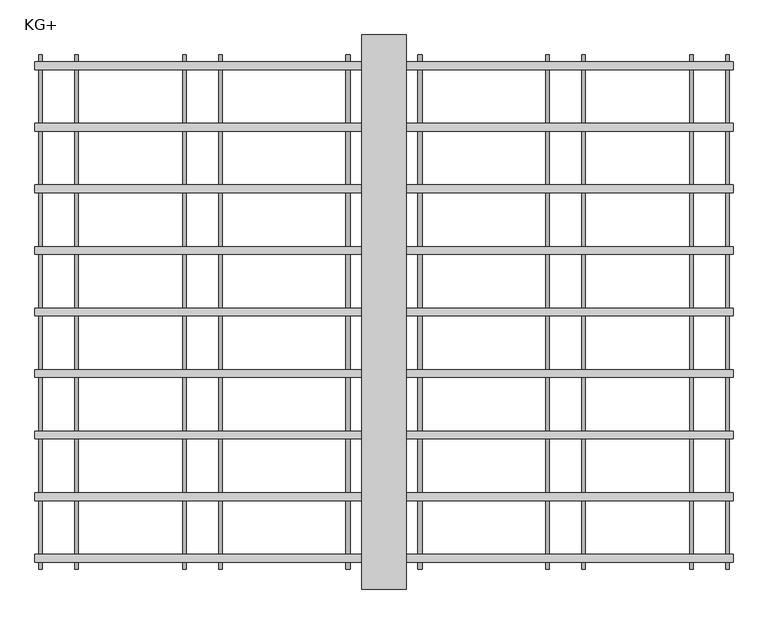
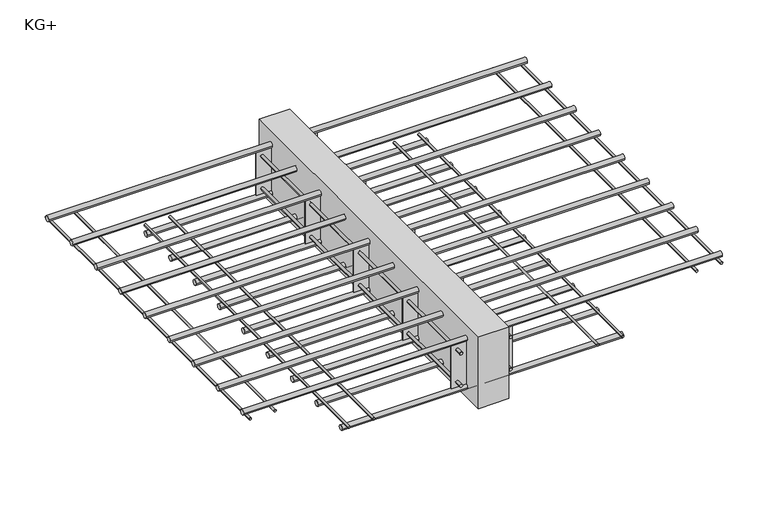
"""IFC4 building model written with IfcOpenShell, lengths in millimetres: fastener geometry, ACINOXplus_Typenreihe_K : KG+."""

from ifc_helpers import new_model, si_unit, point, frame, frame_2d, origin, place, context, project, spatial, polyline, circle_curve, trimmed, segment, composite_curve, outline, extrude, source, transform, mapped, element, save


def kg_b0e02aeb(model_context):
    return source(origin(), model_context, "Body", "SweptSolid", [
        extrude(outline(polyline([(40.0, 500.0), (40.0, -500.0), (-40.0, -500.0), (-40.0, 500.0), (40.0, 500.0)])), frame((0.0, 0.0, -200.0), z_axis=(0.0, 0.0, 1.0), x_axis=(1.0, 0.0, 0.0)), (0.0, 0.0, 1.0), 200.0),
        extrude(outline(polyline([(80.0, -220.7222222), (80.0, -223.7222222), (-80.0, -223.7222222), (-80.0, -220.7222222), (80.0, -220.7222222)])), frame((0.0, 0.0, -164.0), z_axis=(0.0, 0.0, 1.0), x_axis=(1.0, 0.0, 0.0)), (0.0, 0.0, 1.0), 120.0),
        extrude(outline(polyline([(80.0, 1.5), (80.0, -1.5), (-80.0, -1.5), (-80.0, 1.5), (80.0, 1.5)])), frame((0.0, 0.0, -164.0), z_axis=(0.0, 0.0, 1.0), x_axis=(1.0, 0.0, 0.0)), (0.0, 0.0, 1.0), 120.0),
        extrude(outline(polyline([(80.0, 223.7222222), (80.0, 220.7222222), (-80.0, 220.7222222), (-80.0, 223.7222222), (80.0, 223.7222222)])), frame((0.0, 0.0, -164.0), z_axis=(0.0, 0.0, 1.0), x_axis=(1.0, 0.0, 0.0)), (0.0, 0.0, 1.0), 120.0),
        extrude(outline(polyline([(80.0, -442.9444444), (80.0, -445.9444444), (-80.0, -445.9444444), (-80.0, -442.9444444), (80.0, -442.9444444)])), frame((0.0, 0.0, -164.0), z_axis=(0.0, 0.0, 1.0), x_axis=(1.0, 0.0, 0.0)), (0.0, 0.0, 1.0), 120.0),
        extrude(outline(polyline([(80.0, 445.9444444), (80.0, 442.9444444), (-80.0, 442.9444444), (-80.0, 445.9444444), (80.0, 445.9444444)])), frame((0.0, 0.0, -164.0), z_axis=(0.0, 0.0, 1.0), x_axis=(1.0, 0.0, 0.0)), (0.0, 0.0, 1.0), 120.0),
        extrude(outline(composite_curve([segment(trimmed(circle_curve(frame_2d((-149.0, -65.0)), 4.0), [point((-149.0, -61.0))], [point((-149.0, -69.0))], False, "CARTESIAN"), True, "CONTINUOUS"), segment(trimmed(circle_curve(frame_2d((-149.0, -65.0)), 4.0), [point((-149.0, -69.0))], [point((-149.0, -61.0))], False, "CARTESIAN"), True, "CONTINUOUS")], self_intersect=False)), frame((0.0, -464.4444444, 0.0), z_axis=(0.0, 1.0, 0.0), x_axis=(0.0, 0.0, 1.0)), (0.0, 0.0, 1.0), 18.5),
        extrude(outline(composite_curve([segment(trimmed(circle_curve(frame_2d((-149.0, -65.0)), 4.0), [point((-149.0, -69.0))], [point((-149.0, -61.0))], False, "CARTESIAN"), True, "CONTINUOUS"), segment(trimmed(circle_curve(frame_2d((-149.0, -65.0)), 4.0), [point((-149.0, -61.0))], [point((-149.0, -69.0))], False, "CARTESIAN"), True, "CONTINUOUS")], self_intersect=False)), frame((0.0, -442.9444444, 0.0), z_axis=(0.0, 1.0, 0.0), x_axis=(0.0, 0.0, 1.0)), (0.0, 0.0, 1.0), 663.6666667),
        extrude(outline(composite_curve([segment(trimmed(circle_curve(frame_2d((-149.0, -65.0)), 4.0), [point((-149.0, -69.0))], [point((-149.0, -61.0))], False, "CARTESIAN"), True, "CONTINUOUS"), segment(trimmed(circle_curve(frame_2d((-149.0, -65.0)), 4.0), [point((-149.0, -61.0))], [point((-149.0, -69.0))], False, "CARTESIAN"), True, "CONTINUOUS")], self_intersect=False)), frame((0.0, 445.9444444, 0.0), z_axis=(0.0, 1.0, 0.0), x_axis=(0.0, 0.0, 1.0)), (0.0, 0.0, 1.0), 18.5),
        extrude(outline(composite_curve([segment(trimmed(circle_curve(frame_2d((-149.0, -65.0)), 4.0), [point((-149.0, -69.0))], [point((-149.0, -61.0))], False, "CARTESIAN"), True, "CONTINUOUS"), segment(trimmed(circle_curve(frame_2d((-149.0, -65.0)), 4.0), [point((-149.0, -61.0))], [point((-149.0, -69.0))], False, "CARTESIAN"), True, "CONTINUOUS")], self_intersect=False)), frame((0.0, 223.7222222, 0.0), z_axis=(0.0, 1.0, 0.0), x_axis=(0.0, 0.0, 1.0)), (0.0, 0.0, 1.0), 219.2222222),
        extrude(outline(composite_curve([segment(trimmed(circle_curve(frame_2d((-149.0, 65.0)), 4.0), [point((-149.0, 69.0))], [point((-149.0, 61.0))], False, "CARTESIAN"), True, "CONTINUOUS"), segment(trimmed(circle_curve(frame_2d((-149.0, 65.0)), 4.0), [point((-149.0, 61.0))], [point((-149.0, 69.0))], False, "CARTESIAN"), True, "CONTINUOUS")], self_intersect=False)), frame((0.0, -464.4444444, 0.0), z_axis=(0.0, 1.0, 0.0), x_axis=(0.0, 0.0, 1.0)), (0.0, 0.0, 1.0), 18.5),
        extrude(outline(composite_curve([segment(trimmed(circle_curve(frame_2d((-149.0, 65.0)), 4.0), [point((-149.0, 61.0))], [point((-149.0, 69.0))], False, "CARTESIAN"), True, "CONTINUOUS"), segment(trimmed(circle_curve(frame_2d((-149.0, 65.0)), 4.0), [point((-149.0, 69.0))], [point((-149.0, 61.0))], False, "CARTESIAN"), True, "CONTINUOUS")], self_intersect=False)), frame((0.0, -442.9444444, 0.0), z_axis=(0.0, 1.0, 0.0), x_axis=(0.0, 0.0, 1.0)), (0.0, 0.0, 1.0), 663.6666667),
        extrude(outline(composite_curve([segment(trimmed(circle_curve(frame_2d((-149.0, 65.0)), 4.0), [point((-149.0, 61.0))], [point((-149.0, 69.0))], False, "CARTESIAN"), True, "CONTINUOUS"), segment(trimmed(circle_curve(frame_2d((-149.0, 65.0)), 4.0), [point((-149.0, 69.0))], [point((-149.0, 61.0))], False, "CARTESIAN"), True, "CONTINUOUS")], self_intersect=False)), frame((0.0, 445.9444444, 0.0), z_axis=(0.0, 1.0, 0.0), x_axis=(0.0, 0.0, 1.0)), (0.0, 0.0, 1.0), 18.5),
        extrude(outline(composite_curve([segment(trimmed(circle_curve(frame_2d((-149.0, 65.0)), 4.0), [point((-149.0, 61.0))], [point((-149.0, 69.0))], False, "CARTESIAN"), True, "CONTINUOUS"), segment(trimmed(circle_curve(frame_2d((-149.0, 65.0)), 4.0), [point((-149.0, 69.0))], [point((-149.0, 61.0))], False, "CARTESIAN"), True, "CONTINUOUS")], self_intersect=False)), frame((0.0, 223.7222222, 0.0), z_axis=(0.0, 1.0, 0.0), x_axis=(0.0, 0.0, 1.0)), (0.0, 0.0, 1.0), 219.2222222),
        extrude(outline(composite_curve([segment(trimmed(circle_curve(frame_2d((-59.0, -65.0)), 4.0), [point((-59.0, -61.0))], [point((-59.0, -69.0))], False, "CARTESIAN"), True, "CONTINUOUS"), segment(trimmed(circle_curve(frame_2d((-59.0, -65.0)), 4.0), [point((-59.0, -69.0))], [point((-59.0, -61.0))], False, "CARTESIAN"), True, "CONTINUOUS")], self_intersect=False)), frame((0.0, -464.4444444, 0.0), z_axis=(0.0, 1.0, 0.0), x_axis=(0.0, 0.0, 1.0)), (0.0, 0.0, 1.0), 18.5),
        extrude(outline(composite_curve([segment(trimmed(circle_curve(frame_2d((-59.0, -65.0)), 4.0), [point((-59.0, -69.0))], [point((-59.0, -61.0))], False, "CARTESIAN"), True, "CONTINUOUS"), segment(trimmed(circle_curve(frame_2d((-59.0, -65.0)), 4.0), [point((-59.0, -61.0))], [point((-59.0, -69.0))], False, "CARTESIAN"), True, "CONTINUOUS")], self_intersect=False)), frame((0.0, -442.9444444, 0.0), z_axis=(0.0, 1.0, 0.0), x_axis=(0.0, 0.0, 1.0)), (0.0, 0.0, 1.0), 663.6666667),
        extrude(outline(composite_curve([segment(trimmed(circle_curve(frame_2d((-59.0, -65.0)), 4.0), [point((-59.0, -69.0))], [point((-59.0, -61.0))], False, "CARTESIAN"), True, "CONTINUOUS"), segment(trimmed(circle_curve(frame_2d((-59.0, -65.0)), 4.0), [point((-59.0, -61.0))], [point((-59.0, -69.0))], False, "CARTESIAN"), True, "CONTINUOUS")], self_intersect=False)), frame((0.0, 445.9444444, 0.0), z_axis=(0.0, 1.0, 0.0), x_axis=(0.0, 0.0, 1.0)), (0.0, 0.0, 1.0), 18.5),
        extrude(outline(composite_curve([segment(trimmed(circle_curve(frame_2d((-59.0, -65.0)), 4.0), [point((-59.0, -69.0))], [point((-59.0, -61.0))], False, "CARTESIAN"), True, "CONTINUOUS"), segment(trimmed(circle_curve(frame_2d((-59.0, -65.0)), 4.0), [point((-59.0, -61.0))], [point((-59.0, -69.0))], False, "CARTESIAN"), True, "CONTINUOUS")], self_intersect=False)), frame((0.0, 223.7222222, 0.0), z_axis=(0.0, 1.0, 0.0), x_axis=(0.0, 0.0, 1.0)), (0.0, 0.0, 1.0), 219.2222222),
        extrude(outline(composite_curve([segment(trimmed(circle_curve(frame_2d((-59.0, 65.0)), 4.0), [point((-59.0, 69.0))], [point((-59.0, 61.0))], False, "CARTESIAN"), True, "CONTINUOUS"), segment(trimmed(circle_curve(frame_2d((-59.0, 65.0)), 4.0), [point((-59.0, 61.0))], [point((-59.0, 69.0))], False, "CARTESIAN"), True, "CONTINUOUS")], self_intersect=False)), frame((0.0, -464.4444444, 0.0), z_axis=(0.0, 1.0, 0.0), x_axis=(0.0, 0.0, 1.0)), (0.0, 0.0, 1.0), 18.5),
        extrude(outline(composite_curve([segment(trimmed(circle_curve(frame_2d((-59.0, 65.0)), 4.0), [point((-59.0, 61.0))], [point((-59.0, 69.0))], False, "CARTESIAN"), True, "CONTINUOUS"), segment(trimmed(circle_curve(frame_2d((-59.0, 65.0)), 4.0), [point((-59.0, 69.0))], [point((-59.0, 61.0))], False, "CARTESIAN"), True, "CONTINUOUS")], self_intersect=False)), frame((0.0, -442.9444444, 0.0), z_axis=(0.0, 1.0, 0.0), x_axis=(0.0, 0.0, 1.0)), (0.0, 0.0, 1.0), 663.6666667),
        extrude(outline(composite_curve([segment(trimmed(circle_curve(frame_2d((-59.0, 65.0)), 4.0), [point((-59.0, 61.0))], [point((-59.0, 69.0))], False, "CARTESIAN"), True, "CONTINUOUS"), segment(trimmed(circle_curve(frame_2d((-59.0, 65.0)), 4.0), [point((-59.0, 69.0))], [point((-59.0, 61.0))], False, "CARTESIAN"), True, "CONTINUOUS")], self_intersect=False)), frame((0.0, 445.9444444, 0.0), z_axis=(0.0, 1.0, 0.0), x_axis=(0.0, 0.0, 1.0)), (0.0, 0.0, 1.0), 18.5),
        extrude(outline(composite_curve([segment(trimmed(circle_curve(frame_2d((-59.0, 65.0)), 4.0), [point((-59.0, 61.0))], [point((-59.0, 69.0))], False, "CARTESIAN"), True, "CONTINUOUS"), segment(trimmed(circle_curve(frame_2d((-59.0, 65.0)), 4.0), [point((-59.0, 69.0))], [point((-59.0, 61.0))], False, "CARTESIAN"), True, "CONTINUOUS")], self_intersect=False)), frame((0.0, 223.7222222, 0.0), z_axis=(0.0, 1.0, 0.0), x_axis=(0.0, 0.0, 1.0)), (0.0, 0.0, 1.0), 219.2222222),
        extrude(outline(composite_curve([segment(trimmed(circle_curve(frame_2d((222.2222222, -171.0)), 7.0), [point((215.2222222, -171.0))], [point((229.2222222, -171.0))], False, "CARTESIAN"), True, "CONTINUOUS"), segment(trimmed(circle_curve(frame_2d((222.2222222, -171.0)), 7.0), [point((229.2222222, -171.0))], [point((215.2222222, -171.0))], False, "CARTESIAN"), True, "CONTINUOUS")], self_intersect=False)), frame((-370.0, 0.0, 0.0), z_axis=(1.0, 0.0, 0.0), x_axis=(0.0, 1.0, 0.0)), (0.0, 0.0, 1.0), 740.0),
        extrude(outline(composite_curve([segment(trimmed(circle_curve(frame_2d((111.1111111, -171.0)), 7.0), [point((104.1111111, -171.0))], [point((118.1111111, -171.0))], False, "CARTESIAN"), True, "CONTINUOUS"), segment(trimmed(circle_curve(frame_2d((111.1111111, -171.0)), 7.0), [point((118.1111111, -171.0))], [point((104.1111111, -171.0))], False, "CARTESIAN"), True, "CONTINUOUS")], self_intersect=False)), frame((-370.0, 0.0, 0.0), z_axis=(1.0, 0.0, 0.0), x_axis=(0.0, 1.0, 0.0)), (0.0, 0.0, 1.0), 740.0),
        extrude(outline(composite_curve([segment(trimmed(circle_curve(frame_2d((0.0, -171.0)), 7.0), [point((-7.0, -171.0))], [point((7.0, -171.0))], False, "CARTESIAN"), True, "CONTINUOUS"), segment(trimmed(circle_curve(frame_2d((0.0, -171.0)), 7.0), [point((7.0, -171.0))], [point((-7.0, -171.0))], False, "CARTESIAN"), True, "CONTINUOUS")], self_intersect=False)), frame((-370.0, 0.0, 0.0), z_axis=(1.0, 0.0, 0.0), x_axis=(0.0, 1.0, 0.0)), (0.0, 0.0, 1.0), 740.0),
        extrude(outline(composite_curve([segment(trimmed(circle_curve(frame_2d((-111.1111111, -171.0)), 7.0), [point((-118.1111111, -171.0))], [point((-104.1111111, -171.0))], False, "CARTESIAN"), True, "CONTINUOUS"), segment(trimmed(circle_curve(frame_2d((-111.1111111, -171.0)), 7.0), [point((-104.1111111, -171.0))], [point((-118.1111111, -171.0))], False, "CARTESIAN"), True, "CONTINUOUS")], self_intersect=False)), frame((-370.0, 0.0, 0.0), z_axis=(1.0, 0.0, 0.0), x_axis=(0.0, 1.0, 0.0)), (0.0, 0.0, 1.0), 740.0),
        extrude(outline(composite_curve([segment(trimmed(circle_curve(frame_2d((-222.2222222, -171.0)), 7.0), [point((-229.2222222, -171.0))], [point((-215.2222222, -171.0))], False, "CARTESIAN"), True, "CONTINUOUS"), segment(trimmed(circle_curve(frame_2d((-222.2222222, -171.0)), 7.0), [point((-215.2222222, -171.0))], [point((-229.2222222, -171.0))], False, "CARTESIAN"), True, "CONTINUOUS")], self_intersect=False)), frame((-370.0, 0.0, 0.0), z_axis=(1.0, 0.0, 0.0), x_axis=(0.0, 1.0, 0.0)), (0.0, 0.0, 1.0), 740.0),
        extrude(outline(composite_curve([segment(trimmed(circle_curve(frame_2d((333.3333333, -171.0)), 7.0), [point((326.3333333, -171.0))], [point((340.3333333, -171.0))], False, "CARTESIAN"), True, "CONTINUOUS"), segment(trimmed(circle_curve(frame_2d((333.3333333, -171.0)), 7.0), [point((340.3333333, -171.0))], [point((326.3333333, -171.0))], False, "CARTESIAN"), True, "CONTINUOUS")], self_intersect=False)), frame((-370.0, 0.0, 0.0), z_axis=(1.0, 0.0, 0.0), x_axis=(0.0, 1.0, 0.0)), (0.0, 0.0, 1.0), 740.0),
        extrude(outline(composite_curve([segment(trimmed(circle_curve(frame_2d((444.4444444, -171.0)), 7.0), [point((437.4444444, -171.0))], [point((451.4444444, -171.0))], False, "CARTESIAN"), True, "CONTINUOUS"), segment(trimmed(circle_curve(frame_2d((444.4444444, -171.0)), 7.0), [point((451.4444444, -171.0))], [point((437.4444444, -171.0))], False, "CARTESIAN"), True, "CONTINUOUS")], self_intersect=False)), frame((-370.0, 0.0, 0.0), z_axis=(1.0, 0.0, 0.0), x_axis=(0.0, 1.0, 0.0)), (0.0, 0.0, 1.0), 740.0),
        extrude(outline(composite_curve([segment(trimmed(circle_curve(frame_2d((-333.3333333, -171.0)), 7.0), [point((-340.3333333, -171.0))], [point((-326.3333333, -171.0))], False, "CARTESIAN"), True, "CONTINUOUS"), segment(trimmed(circle_curve(frame_2d((-333.3333333, -171.0)), 7.0), [point((-326.3333333, -171.0))], [point((-340.3333333, -171.0))], False, "CARTESIAN"), True, "CONTINUOUS")], self_intersect=False)), frame((-370.0, 0.0, 0.0), z_axis=(1.0, 0.0, 0.0), x_axis=(0.0, 1.0, 0.0)), (0.0, 0.0, 1.0), 740.0),
        extrude(outline(composite_curve([segment(trimmed(circle_curve(frame_2d((-444.4444444, -171.0)), 7.0), [point((-451.4444444, -171.0))], [point((-437.4444444, -171.0))], False, "CARTESIAN"), True, "CONTINUOUS"), segment(trimmed(circle_curve(frame_2d((-444.4444444, -171.0)), 7.0), [point((-437.4444444, -171.0))], [point((-451.4444444, -171.0))], False, "CARTESIAN"), True, "CONTINUOUS")], self_intersect=False)), frame((-370.0, 0.0, 0.0), z_axis=(1.0, 0.0, 0.0), x_axis=(0.0, 1.0, 0.0)), (0.0, 0.0, 1.0), 740.0),
        extrude(outline(composite_curve([segment(trimmed(circle_curve(frame_2d((222.2222222, -37.0)), 7.0), [point((215.2222222, -37.0))], [point((229.2222222, -37.0))], False, "CARTESIAN"), True, "CONTINUOUS"), segment(trimmed(circle_curve(frame_2d((222.2222222, -37.0)), 7.0), [point((229.2222222, -37.0))], [point((215.2222222, -37.0))], False, "CARTESIAN"), True, "CONTINUOUS")], self_intersect=False)), frame((-630.0, 0.0, 0.0), z_axis=(1.0, 0.0, 0.0), x_axis=(0.0, 1.0, 0.0)), (0.0, 0.0, 1.0), 1260.0),
        extrude(outline(composite_curve([segment(trimmed(circle_curve(frame_2d((111.1111111, -37.0)), 7.0), [point((104.1111111, -37.0))], [point((118.1111111, -37.0))], False, "CARTESIAN"), True, "CONTINUOUS"), segment(trimmed(circle_curve(frame_2d((111.1111111, -37.0)), 7.0), [point((118.1111111, -37.0))], [point((104.1111111, -37.0))], False, "CARTESIAN"), True, "CONTINUOUS")], self_intersect=False)), frame((-630.0, 0.0, 0.0), z_axis=(1.0, 0.0, 0.0), x_axis=(0.0, 1.0, 0.0)), (0.0, 0.0, 1.0), 1260.0),
        extrude(outline(composite_curve([segment(trimmed(circle_curve(frame_2d((0.0, -37.0)), 7.0), [point((-7.0, -37.0))], [point((7.0, -37.0))], False, "CARTESIAN"), True, "CONTINUOUS"), segment(trimmed(circle_curve(frame_2d((0.0, -37.0)), 7.0), [point((7.0, -37.0))], [point((-7.0, -37.0))], False, "CARTESIAN"), True, "CONTINUOUS")], self_intersect=False)), frame((-630.0, 0.0, 0.0), z_axis=(1.0, 0.0, 0.0), x_axis=(0.0, 1.0, 0.0)), (0.0, 0.0, 1.0), 1260.0),
        extrude(outline(composite_curve([segment(trimmed(circle_curve(frame_2d((-111.1111111, -37.0)), 7.0), [point((-118.1111111, -37.0))], [point((-104.1111111, -37.0))], False, "CARTESIAN"), True, "CONTINUOUS"), segment(trimmed(circle_curve(frame_2d((-111.1111111, -37.0)), 7.0), [point((-104.1111111, -37.0))], [point((-118.1111111, -37.0))], False, "CARTESIAN"), True, "CONTINUOUS")], self_intersect=False)), frame((-630.0, 0.0, 0.0), z_axis=(1.0, 0.0, 0.0), x_axis=(0.0, 1.0, 0.0)), (0.0, 0.0, 1.0), 1260.0),
        extrude(outline(composite_curve([segment(trimmed(circle_curve(frame_2d((-222.2222222, -37.0)), 7.0), [point((-229.2222222, -37.0))], [point((-215.2222222, -37.0))], False, "CARTESIAN"), True, "CONTINUOUS"), segment(trimmed(circle_curve(frame_2d((-222.2222222, -37.0)), 7.0), [point((-215.2222222, -37.0))], [point((-229.2222222, -37.0))], False, "CARTESIAN"), True, "CONTINUOUS")], self_intersect=False)), frame((-630.0, 0.0, 0.0), z_axis=(1.0, 0.0, 0.0), x_axis=(0.0, 1.0, 0.0)), (0.0, 0.0, 1.0), 1260.0),
        extrude(outline(composite_curve([segment(trimmed(circle_curve(frame_2d((333.3333333, -37.0)), 7.0), [point((326.3333333, -37.0))], [point((340.3333333, -37.0))], False, "CARTESIAN"), True, "CONTINUOUS"), segment(trimmed(circle_curve(frame_2d((333.3333333, -37.0)), 7.0), [point((340.3333333, -37.0))], [point((326.3333333, -37.0))], False, "CARTESIAN"), True, "CONTINUOUS")], self_intersect=False)), frame((-630.0, 0.0, 0.0), z_axis=(1.0, 0.0, 0.0), x_axis=(0.0, 1.0, 0.0)), (0.0, 0.0, 1.0), 1260.0),
        extrude(outline(composite_curve([segment(trimmed(circle_curve(frame_2d((444.4444444, -37.0)), 7.0), [point((437.4444444, -37.0))], [point((451.4444444, -37.0))], False, "CARTESIAN"), True, "CONTINUOUS"), segment(trimmed(circle_curve(frame_2d((444.4444444, -37.0)), 7.0), [point((451.4444444, -37.0))], [point((437.4444444, -37.0))], False, "CARTESIAN"), True, "CONTINUOUS")], self_intersect=False)), frame((-630.0, 0.0, 0.0), z_axis=(1.0, 0.0, 0.0), x_axis=(0.0, 1.0, 0.0)), (0.0, 0.0, 1.0), 1260.0),
        extrude(outline(composite_curve([segment(trimmed(circle_curve(frame_2d((-333.3333333, -37.0)), 7.0), [point((-340.3333333, -37.0))], [point((-326.3333333, -37.0))], False, "CARTESIAN"), True, "CONTINUOUS"), segment(trimmed(circle_curve(frame_2d((-333.3333333, -37.0)), 7.0), [point((-326.3333333, -37.0))], [point((-340.3333333, -37.0))], False, "CARTESIAN"), True, "CONTINUOUS")], self_intersect=False)), frame((-630.0, 0.0, 0.0), z_axis=(1.0, 0.0, 0.0), x_axis=(0.0, 1.0, 0.0)), (0.0, 0.0, 1.0), 1260.0),
        extrude(outline(composite_curve([segment(trimmed(circle_curve(frame_2d((-444.4444444, -37.0)), 7.0), [point((-451.4444444, -37.0))], [point((-437.4444444, -37.0))], False, "CARTESIAN"), True, "CONTINUOUS"), segment(trimmed(circle_curve(frame_2d((-444.4444444, -37.0)), 7.0), [point((-437.4444444, -37.0))], [point((-451.4444444, -37.0))], False, "CARTESIAN"), True, "CONTINUOUS")], self_intersect=False)), frame((-630.0, 0.0, 0.0), z_axis=(1.0, 0.0, 0.0), x_axis=(0.0, 1.0, 0.0)), (0.0, 0.0, 1.0), 1260.0),
        extrude(outline(composite_curve([segment(trimmed(circle_curve(frame_2d((-161.0, -360.0)), 3.0), [point((-161.0, -357.0))], [point((-161.0, -363.0))], False, "CARTESIAN"), True, "CONTINUOUS"), segment(trimmed(circle_curve(frame_2d((-161.0, -360.0)), 3.0), [point((-161.0, -363.0))], [point((-161.0, -357.0))], False, "CARTESIAN"), True, "CONTINUOUS")], self_intersect=False)), frame((0.0, -464.4444444, 0.0), z_axis=(0.0, 1.0, 0.0), x_axis=(0.0, 0.0, 1.0)), (0.0, 0.0, 1.0), 928.8888889),
        extrude(outline(composite_curve([segment(trimmed(circle_curve(frame_2d((-161.0, -295.0)), 3.0), [point((-161.0, -292.0))], [point((-161.0, -298.0))], False, "CARTESIAN"), True, "CONTINUOUS"), segment(trimmed(circle_curve(frame_2d((-161.0, -295.0)), 3.0), [point((-161.0, -298.0))], [point((-161.0, -292.0))], False, "CARTESIAN"), True, "CONTINUOUS")], self_intersect=False)), frame((0.0, -464.4444444, 0.0), z_axis=(0.0, 1.0, 0.0), x_axis=(0.0, 0.0, 1.0)), (0.0, 0.0, 1.0), 928.8888889),
        extrude(outline(composite_curve([segment(trimmed(circle_curve(frame_2d((-161.0, 295.0)), 3.0), [point((-161.0, 298.0))], [point((-161.0, 292.0))], False, "CARTESIAN"), True, "CONTINUOUS"), segment(trimmed(circle_curve(frame_2d((-161.0, 295.0)), 3.0), [point((-161.0, 292.0))], [point((-161.0, 298.0))], False, "CARTESIAN"), True, "CONTINUOUS")], self_intersect=False)), frame((0.0, -464.4444444, 0.0), z_axis=(0.0, 1.0, 0.0), x_axis=(0.0, 0.0, 1.0)), (0.0, 0.0, 1.0), 928.8888889),
        extrude(outline(composite_curve([segment(trimmed(circle_curve(frame_2d((-161.0, 360.0)), 3.0), [point((-161.0, 363.0))], [point((-161.0, 357.0))], False, "CARTESIAN"), True, "CONTINUOUS"), segment(trimmed(circle_curve(frame_2d((-161.0, 360.0)), 3.0), [point((-161.0, 357.0))], [point((-161.0, 363.0))], False, "CARTESIAN"), True, "CONTINUOUS")], self_intersect=False)), frame((0.0, -464.4444444, 0.0), z_axis=(0.0, 1.0, 0.0), x_axis=(0.0, 0.0, 1.0)), (0.0, 0.0, 1.0), 928.8888889),
        extrude(outline(composite_curve([segment(trimmed(circle_curve(frame_2d((-47.0, 555.0)), 3.0), [point((-47.0, 558.0))], [point((-47.0, 552.0))], False, "CARTESIAN"), True, "CONTINUOUS"), segment(trimmed(circle_curve(frame_2d((-47.0, 555.0)), 3.0), [point((-47.0, 552.0))], [point((-47.0, 558.0))], False, "CARTESIAN"), True, "CONTINUOUS")], self_intersect=False)), frame((0.0, -464.4444444, 0.0), z_axis=(0.0, 1.0, 0.0), x_axis=(0.0, 0.0, 1.0)), (0.0, 0.0, 1.0), 928.8888889),
        extrude(outline(composite_curve([segment(trimmed(circle_curve(frame_2d((-47.0, 620.0)), 3.0), [point((-47.0, 623.0))], [point((-47.0, 617.0))], False, "CARTESIAN"), True, "CONTINUOUS"), segment(trimmed(circle_curve(frame_2d((-47.0, 620.0)), 3.0), [point((-47.0, 617.0))], [point((-47.0, 623.0))], False, "CARTESIAN"), True, "CONTINUOUS")], self_intersect=False)), frame((0.0, -464.4444444, 0.0), z_axis=(0.0, 1.0, 0.0), x_axis=(0.0, 0.0, 1.0)), (0.0, 0.0, 1.0), 928.8888889),
        extrude(outline(composite_curve([segment(trimmed(circle_curve(frame_2d((-47.0, -620.0)), 3.0), [point((-47.0, -617.0))], [point((-47.0, -623.0))], False, "CARTESIAN"), True, "CONTINUOUS"), segment(trimmed(circle_curve(frame_2d((-47.0, -620.0)), 3.0), [point((-47.0, -623.0))], [point((-47.0, -617.0))], False, "CARTESIAN"), True, "CONTINUOUS")], self_intersect=False)), frame((0.0, -464.4444444, 0.0), z_axis=(0.0, 1.0, 0.0), x_axis=(0.0, 0.0, 1.0)), (0.0, 0.0, 1.0), 928.8888889),
        extrude(outline(composite_curve([segment(trimmed(circle_curve(frame_2d((-47.0, -555.0)), 3.0), [point((-47.0, -552.0))], [point((-47.0, -558.0))], False, "CARTESIAN"), True, "CONTINUOUS"), segment(trimmed(circle_curve(frame_2d((-47.0, -555.0)), 3.0), [point((-47.0, -558.0))], [point((-47.0, -552.0))], False, "CARTESIAN"), True, "CONTINUOUS")], self_intersect=False)), frame((0.0, -464.4444444, 0.0), z_axis=(0.0, 1.0, 0.0), x_axis=(0.0, 0.0, 1.0)), (0.0, 0.0, 1.0), 928.8888889),
    ])


if __name__ == "__main__":
    model = new_model("IFC4")
    model_context = context("Model", 3, world=origin())
    ifc_project = project(units=[si_unit("LENGTHUNIT", "METRE", prefix="MILLI")], contexts=[model_context])
    site = spatial("IfcSite", under=ifc_project)
    building = spatial("IfcBuilding", under=site)
    placement = place(None, origin())
    kg_shape = kg_b0e02aeb(model_context)
    element("IfcFastener", 1, ObjectType="ACINOXplus_Typenreihe_K : KG+", at=placement, inside=building, context=model_context, shape_type="MappedRepresentation", body=[
        mapped(kg_shape, transform((0.0, 0.0, 0.0), x_axis=(1.0, 0.0, 0.0), y_axis=(0.0, 1.0, 0.0), z_axis=(0.0, 0.0, 1.0))),
    ])
    save(model, "model.ifc")
